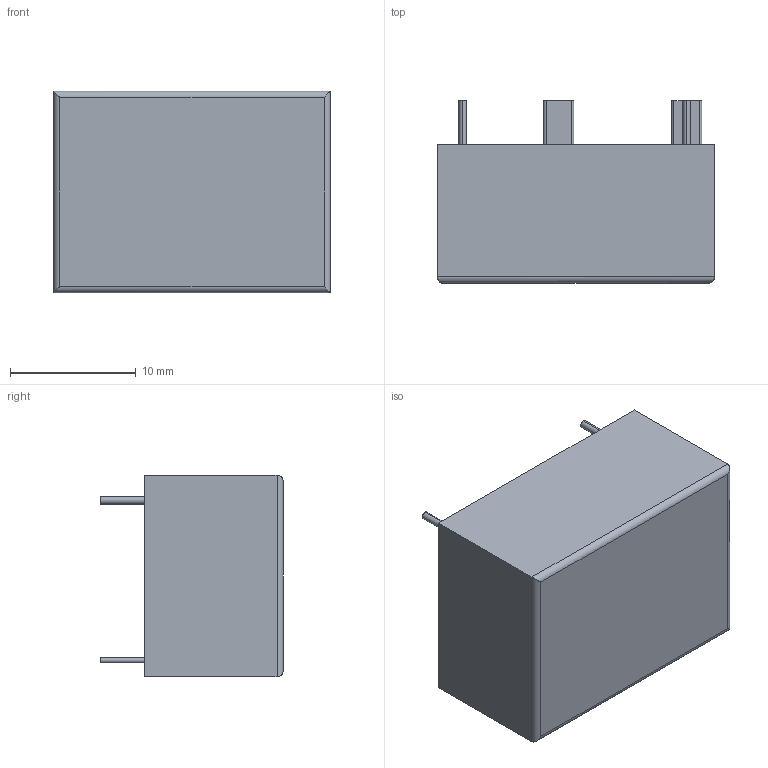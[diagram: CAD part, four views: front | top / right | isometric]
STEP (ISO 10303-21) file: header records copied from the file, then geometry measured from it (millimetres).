
FILE_DESCRIPTION (( 'STEP AP214' ), '1' );
FILE_NAME ('OMRON-GC5A.STEP', '2014-11-27T19:35:41', ( '' ), ( '' ), 'SwSTEP 2.0', 'SolidWorks 2014', '' );
FILE_SCHEMA (( 'AUTOMOTIVE_DESIGN' ));
Length unit declared in the file: millimetre
Products named in the file (1): OMRON-GC5A
Bounding box: 22 x 14.5 x 16 mm (x, y, z)
Volume: 3876.4 mm3; surface area: 1573.5 mm2
Topology: 1 solids, 1 shells, 26 faces, 56 edges, 36 vertices
Faces by surface type: plane 14, cylinder 12
Entity records: 848 total; most frequent: CARTESIAN_POINT 131, DIRECTION 122, ORIENTED_EDGE 112, EDGE_CURVE 56, AXIS2_PLACEMENT_3D 43, VECTOR 36, LINE 36, VERTEX_POINT 36
